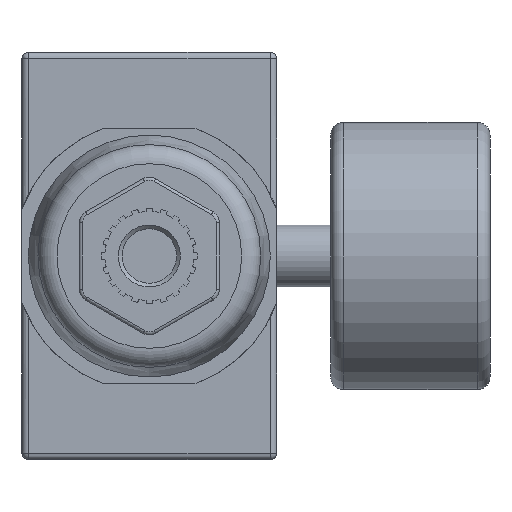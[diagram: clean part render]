
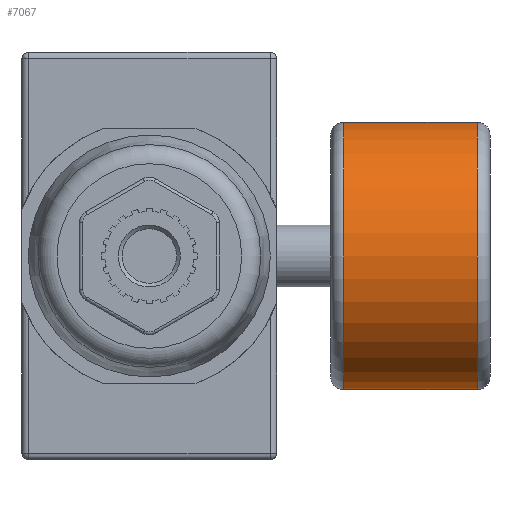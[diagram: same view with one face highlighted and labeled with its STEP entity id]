
A CAD part, front view. The second image highlights one B-rep face of the part: STEP entity #7067.
In plain terms, the highlighted cylindrical face has radius 21 mm (diameter 42 mm), a full revolution.
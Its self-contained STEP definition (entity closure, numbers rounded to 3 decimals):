
#720=LINE('',#12740,#1281);
#1281=VECTOR('',#10004,21.);
#1441=CYLINDRICAL_SURFACE('',#7875,21.);
#1830=FACE_OUTER_BOUND('',#2236,.T.);
#2236=EDGE_LOOP('',(#6469,#6470,#6471,#6472));
#2633=CIRCLE('',#7874,21.);
#2634=CIRCLE('',#7876,21.);
#3317=VERTEX_POINT('',#12735);
#3318=VERTEX_POINT('',#12739);
#4368=EDGE_CURVE('',#3317,#3317,#2633,.T.);
#4369=EDGE_CURVE('',#3317,#3318,#720,.T.);
#4370=EDGE_CURVE('',#3318,#3318,#2634,.T.);
#6469=ORIENTED_EDGE('',*,*,#4368,.F.);
#6470=ORIENTED_EDGE('',*,*,#4369,.T.);
#6471=ORIENTED_EDGE('',*,*,#4370,.T.);
#6472=ORIENTED_EDGE('',*,*,#4369,.F.);
#7067=ADVANCED_FACE('',(#1830),#1441,.T.);
#7874=AXIS2_PLACEMENT_3D('',#12737,#10000,#10001);
#7875=AXIS2_PLACEMENT_3D('',#12738,#10002,#10003);
#7876=AXIS2_PLACEMENT_3D('',#12741,#10005,#10006);
#10000=DIRECTION('center_axis',(1.,0.,0.));
#10001=DIRECTION('ref_axis',(0.,0.,-1.));
#10002=DIRECTION('center_axis',(1.,0.,0.));
#10003=DIRECTION('ref_axis',(0.,0.,-1.));
#10004=DIRECTION('',(-1.,0.,0.));
#10005=DIRECTION('center_axis',(1.,0.,0.));
#10006=DIRECTION('ref_axis',(0.,0.,-1.));
#12735=CARTESIAN_POINT('',(71.5,10.5,-11.));
#12737=CARTESIAN_POINT('Origin',(71.5,10.5,-32.));
#12738=CARTESIAN_POINT('Origin',(73.5,10.5,-32.));
#12739=CARTESIAN_POINT('',(50.5,10.5,-11.));
#12740=CARTESIAN_POINT('',(73.5,10.5,-11.));
#12741=CARTESIAN_POINT('Origin',(50.5,10.5,-32.));
